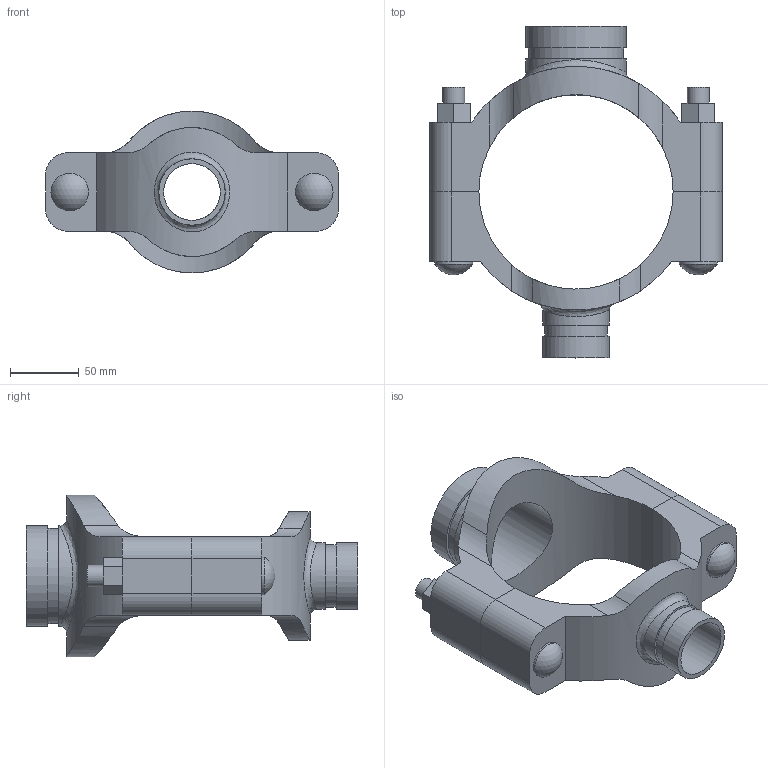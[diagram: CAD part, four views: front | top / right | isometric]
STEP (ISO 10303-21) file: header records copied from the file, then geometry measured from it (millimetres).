
FILE_DESCRIPTION(/* description */ ('VIC MECH-T BRANCH OUTLET CROSS STYLE 920N (GRVD)','CAx-IF Rec.Pracs.---Representation and Presentation of Product Manufacturing Information (PMI)---4.0---2014-10-13'),/* implementation_level */ '2;1');
FILE_NAME(/* name */ 'C:\Users\Vjadhav\AppData\Roaming\Autodesk\ApplicationPlugins\Back Up\Victaulic_IPS_Mechanical-Cross Outlet_Style 920N (OGS)\Victaulic_IPS_Mechanical-Cross Outlet_05.0x02.5x01.5 (125x65x40).stp',/* time_stamp */ '2020-08-06T19:44:20+05:00',/* author */ ('Vjadhav'),/* organization */ ('Victaulic'),/* preprocessor_version */ 'ST-DEVELOPER v17.2',/* originating_system */ 'Autodesk Inventor 2019',/* authorisation */ '');
FILE_SCHEMA (('AP242_MANAGED_MODEL_BASED_3D_ENGINEERING_MIM_LF { 1 0 10303 442 1 1 4 }'));
Length unit declared in the file: inch
Products named in the file (3): 920NG-05.0x02.5x01.5; 920G-05.0x02.5; 920G-05.0x01.5
Assembly tree (2 placements, depth 2):
  920NG-05.0x02.5x01.5
    920G-05.0x02.5
    920G-05.0x01.5
Bounding box: 212.85 x 241.3 x 117.56 mm (x, y, z)
Volume: 849003.9 mm3; surface area: 160380.4 mm2
Topology: 2 solids, 2 shells, 106 faces, 268 edges, 182 vertices
Faces by surface type: plane 54, cylinder 48, sphere 2, bspline 2
Full cylindrical faces by diameter (mm): 15.875 x4, 27.381 x2, 41.275 x1, 45.085 x1, 48.26 x2, 62.738 x1, 69.088 x1, 73.025 x2
Entity records: 4202 total; most frequent: CARTESIAN_POINT 1375, DIRECTION 542, ORIENTED_EDGE 536, EDGE_CURVE 268, AXIS2_PLACEMENT_3D 197, VERTEX_POINT 182, LINE 148, VECTOR 148
